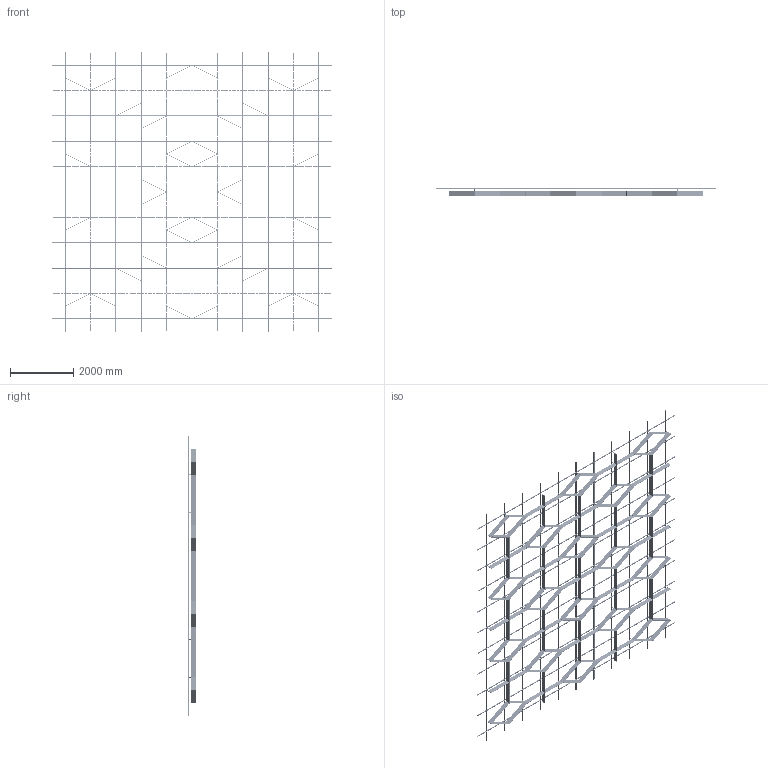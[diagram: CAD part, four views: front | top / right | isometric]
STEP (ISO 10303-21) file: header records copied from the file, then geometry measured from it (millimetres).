
FILE_DESCRIPTION (( 'STEP AP214' ), '1' );
FILE_NAME ('OPT_Var10.STEP', '2024-04-26T06:46:30', ( '' ), ( '' ), 'SwSTEP 2.0', 'SolidWorks 2020', '' );
FILE_SCHEMA (( 'AUTOMOTIVE_DESIGN' ));
Length unit declared in the file: millimetre
Products named in the file (5): SS.SEMA.2400 - Ñèìà-ïðîôèëü; OPT_Var10; Ñèñòåìà â çîíå 8000õ8000; Varp10; SS.SEMA.2400 - Ñèìà-ïðîôèëü — îáðåçàí 1600
Assembly tree (90 placements, depth 3):
  OPT_Var10
    Ñèñòåìà â çîíå 8000õ8000
      SS.SEMA.2400 - Ñèìà-ïðîôèëü  x66
      SS.SEMA.2400 - Ñèìà-ïðîôèëü — îáðåçàí 1600  x22
    Varp10
Bounding box: 8800 x 253 x 8800 mm (x, y, z)
Volume: 150082197 mm3; surface area: 66925381.3 mm2
Topology: 624 solids, 624 shells, 19484 faces, 53300 edges, 35064 vertices
Faces by surface type: cylinder 12650, plane 6834
Entity records: 90961 total; most frequent: CARTESIAN_POINT 27346, ORIENTED_EDGE 13448, DIRECTION 8322, EDGE_CURVE 6724, VERTEX_POINT 4472, B_SPLINE_CURVE_WITH_KNOTS 4152, AXIS2_PLACEMENT_3D 3912, EDGE_LOOP 3490
